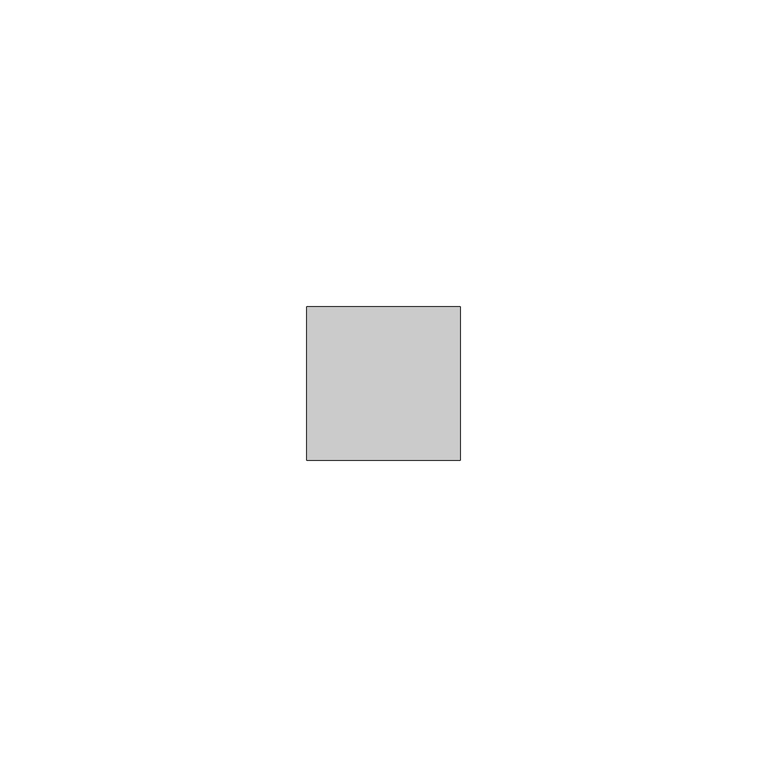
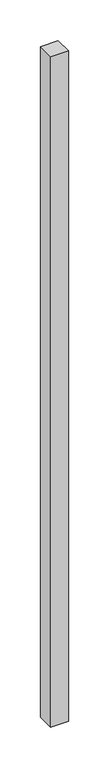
"""IFC4 building model written with IfcOpenShell, lengths in millimetres: member geometry, Obdélníková příčel : VERTI AERO."""

import ifcopenshell
import ifcopenshell.guid

model = None  # the IFC model being written
_history = None  # IfcOwnerHistory: only IFC2X3 demands one
_inside = {}  # id of a spatial element -> (the spatial element, [elements in it])
_under = {}  # id of a project, library or spatial element -> (it, [spatial elements below it])
_declared = {}  # id of a project -> (the project, [libraries it declares])
_typed = {}  # id of a type object -> (the type object, [elements of that type])
_made_of = {}  # id of a material, layer set ... -> (it, [elements and type objects made of it])


def new_model(schema):
    """Start an empty IFC model of exactly this schema.

    Asked for "IFC4X3", IfcOpenShell would pick the latest addendum, in which some entities
    have other attributes; the version numbers below select the first issue.
    IFC2X3 requires an IfcOwnerHistory on every rooted entity: one is made here for all.
    """
    global model, _history
    if schema == "IFC4X3":
        model = ifcopenshell.file(schema_version=(4, 3, 0, 0))
    else:
        model = ifcopenshell.file(schema=schema)
    _inside.clear()
    _under.clear()
    _declared.clear()
    _typed.clear()
    _made_of.clear()
    _history = None
    if model.schema == "IFC2X3":
        org = make("IfcOrganization", Name="unknown")
        user = make(
            "IfcPersonAndOrganization",
            ThePerson=make("IfcPerson", FamilyName="unknown"),
            TheOrganization=org,
        )
        app = make(
            "IfcApplication",
            ApplicationDeveloper=org,
            Version="unknown",
            ApplicationFullName="unknown",
            ApplicationIdentifier="unknown",
        )
        _history = make(
            "IfcOwnerHistory",
            OwningUser=user,
            OwningApplication=app,
            ChangeAction="ADDED",
            CreationDate=0,
        )
    return model


def make(cls, **values):
    """One entity of the class cls with the attributes given. An attribute that is None is left unset."""
    return model.create_entity(
        cls, **{name: value for name, value in values.items() if value is not None}
    )


def rooted(cls, **values):
    """An entity with a GlobalId (a new one), such as an element, a storey or a relation."""
    return make(cls, GlobalId=ifcopenshell.guid.new(), OwnerHistory=_history, **values)


def si_unit(unit_type, name, prefix=None):
    """IfcSIUnit, for example si_unit("LENGTHUNIT", "METRE", prefix="MILLI")."""
    return make("IfcSIUnit", UnitType=unit_type, Prefix=prefix, Name=name)


def assignment(units):
    """IfcUnitAssignment: the units of a project."""
    return None if units is None else make("IfcUnitAssignment", Units=units)


def point(xyz):
    """IfcCartesianPoint."""
    return None if xyz is None else make("IfcCartesianPoint", Coordinates=xyz)


def direction(xyz):
    """IfcDirection."""
    return None if xyz is None else make("IfcDirection", DirectionRatios=xyz)


def frame(location, z_axis=None, x_axis=None):
    """IfcAxis2Placement3D, a coordinate frame: its origin and axes. An axis left out is left unset."""
    return make(
        "IfcAxis2Placement3D",
        Location=point(location),
        Axis=direction(z_axis),
        RefDirection=direction(x_axis),
    )


def origin():
    """The frame at (0, 0, 0) with its axes left unset."""
    return frame((0.0, 0.0, 0.0))


def place(relative_to, where):
    """IfcLocalPlacement: puts the frame where relative to a parent placement (None: the world)."""
    return make(
        "IfcLocalPlacement", PlacementRelTo=relative_to, RelativePlacement=where
    )


def context(
    kind, dimensions, precision=None, world=None, true_north=None, identifier=None
):
    """IfcGeometricRepresentationContext, for example the 3D "Model" context."""
    return make(
        "IfcGeometricRepresentationContext",
        ContextIdentifier=identifier,
        ContextType=kind,
        CoordinateSpaceDimension=dimensions,
        Precision=precision,
        WorldCoordinateSystem=world,
        TrueNorth=true_north,
    )


def project(units=None, contexts=None):
    """IfcProject with its units and contexts."""
    return rooted(
        "IfcProject",
        Name="project",
        RepresentationContexts=contexts,
        UnitsInContext=assignment(units),
    )


def spatial(cls, under=None, at=None, **own):
    """A site, building, storey or space (cls), placed at a placement, below another one or the project."""
    s = rooted(cls, ObjectPlacement=at, **own)
    if under is not None:
        _under.setdefault(under.id(), (under, []))[1].append(s)
    return s


def polyline(points):
    """IfcPolyline through the points."""
    return make("IfcPolyline", Points=[point(p) for p in points])


def outline(outer, holes=None, kind="AREA"):
    """IfcArbitraryClosedProfileDef: a profile drawn as a closed curve; with holes, ...WithVoids."""
    if holes is None:
        return make("IfcArbitraryClosedProfileDef", ProfileType=kind, OuterCurve=outer)
    return make(
        "IfcArbitraryProfileDefWithVoids",
        ProfileType=kind,
        OuterCurve=outer,
        InnerCurves=holes,
    )


def extrude(swept, where, along, depth):
    """IfcExtrudedAreaSolid: the profile swept, set in the frame where, extruded along a direction by depth."""
    return make(
        "IfcExtrudedAreaSolid",
        SweptArea=swept,
        Position=where,
        ExtrudedDirection=direction(along),
        Depth=depth,
    )


def shape(context_of_items, identifier, shape_type, items):
    """IfcShapeRepresentation: the items that make up one representation, for example the "Body"."""
    return make(
        "IfcShapeRepresentation",
        ContextOfItems=context_of_items,
        RepresentationIdentifier=identifier,
        RepresentationType=shape_type,
        Items=items,
    )


def source(mapping_origin, context_of_items, identifier, shape_type, items):
    """IfcRepresentationMap: a shape defined once, which mapped items show again and again."""
    return make(
        "IfcRepresentationMap",
        MappingOrigin=mapping_origin,
        MappedRepresentation=shape(context_of_items, identifier, shape_type, items),
    )


def transform(
    local_origin,
    x_axis=None,
    y_axis=None,
    z_axis=None,
    scale=None,
    scale2=None,
    scale3=None,
    uniform=True,
):
    """IfcCartesianTransformationOperator3D, or its non-uniform kind. x_axis, y_axis, z_axis: its Axis1, 2, 3."""
    if uniform:
        return make(
            "IfcCartesianTransformationOperator3D",
            Axis1=direction(x_axis),
            Axis2=direction(y_axis),
            LocalOrigin=point(local_origin),
            Scale=scale,
            Axis3=direction(z_axis),
        )
    return make(
        "IfcCartesianTransformationOperator3DnonUniform",
        Axis1=direction(x_axis),
        Axis2=direction(y_axis),
        LocalOrigin=point(local_origin),
        Scale=scale,
        Axis3=direction(z_axis),
        Scale2=scale2,
        Scale3=scale3,
    )


def mapped(mapping_source, mapping_target):
    """IfcMappedItem: shows the shape of a source again, moved by a transform."""
    return make(
        "IfcMappedItem", MappingSource=mapping_source, MappingTarget=mapping_target
    )


def made_of(thing, what):
    """Note that an element or type object is made of a material, layer set ...; save() writes the relation."""
    if what is not None:
        _made_of.setdefault(what.id(), (what, []))[1].append(thing)
    return thing


def element(
    cls,
    number,
    at=None,
    inside=None,
    cuts=None,
    type_object=None,
    material=None,
    context=None,
    identifier="Body",
    shape_type=None,
    held_by="IfcProductDefinitionShape",
    body=None,
    shapes=None,
    **own,
):
    """One element of the class cls, such as IfcWall. Its Tag is "e" and its number.

    at: its placement. inside: the storey or other place that contains it. cuts: it is an
    opening in that element (IfcRelVoidsElement). A single representation is given by context,
    identifier, shape_type and body (its items); several are given by shapes. held_by: the class
    of the entity that holds the representations. save() writes the other relations.
    """
    e = rooted(cls, Tag="e%d" % number, ObjectPlacement=at, **own)
    if body is not None:
        shapes = [shape(context, identifier, shape_type, body)]
    if shapes is not None:
        e.Representation = make(held_by, Representations=shapes)
    if inside is not None:
        _inside.setdefault(inside.id(), (inside, []))[1].append(e)
    if cuts is not None:
        rooted(
            "IfcRelVoidsElement", RelatingBuildingElement=cuts, RelatedOpeningElement=e
        )
    if type_object is not None:
        _typed.setdefault(type_object.id(), (type_object, []))[1].append(e)
    return made_of(e, material)


def aggregate(whole, parts):
    """IfcRelAggregates: a whole, such as a stair, and the parts it consists of."""
    return rooted("IfcRelAggregates", RelatingObject=whole, RelatedObjects=parts)


def save(model, path):
    """Write the relations noted so far, then the file.

    IfcRelAggregates (storeys below a building ...), IfcRelContainedInSpatialStructure (elements
    in a storey), IfcRelDefinesByType, IfcRelAssociatesMaterial and IfcRelDeclares: one each for
    every whole, place, type object, material and project.
    """
    for whole, parts in _under.values():
        aggregate(whole, parts)
    for where, things in _inside.values():
        rooted(
            "IfcRelContainedInSpatialStructure",
            RelatedElements=things,
            RelatingStructure=where,
        )
    for kind, things in _typed.values():
        rooted("IfcRelDefinesByType", RelatedObjects=things, RelatingType=kind)
    for what, things in _made_of.values():
        rooted("IfcRelAssociatesMaterial", RelatedObjects=things, RelatingMaterial=what)
    for by, libraries in _declared.values():
        rooted("IfcRelDeclares", RelatingContext=by, RelatedDefinitions=libraries)
    model.write(path)


def member_3ccf52a2(model_context):
    return source(origin(), model_context, "Body", "SweptSolid", [
        extrude(outline(polyline([(-25.0, 12.5), (0.0, 12.5), (0.0, -12.5), (-25.0, -12.5), (-25.0, 12.5)])), frame((0.0, 0.0, -1005.0), z_axis=(0.0, 0.0, 1.0), x_axis=(1.0, 0.0, 0.0)), (0.0, 0.0, 1.0), 1005.0),
    ])


if __name__ == "__main__":
    model = new_model("IFC4")
    model_context = context("Model", 3, world=origin())
    ifc_project = project(units=[si_unit("LENGTHUNIT", "METRE", prefix="MILLI")], contexts=[model_context])
    site = spatial("IfcSite", under=ifc_project)
    building = spatial("IfcBuilding", under=site)
    placement = place(None, origin())
    member_shape = member_3ccf52a2(model_context)
    element("IfcMember", 1, ObjectType="Obdélníková příčel : VERTI AERO", at=placement, inside=building, context=model_context, shape_type="MappedRepresentation", body=[
        mapped(member_shape, transform((0.0, 0.0, 0.0), x_axis=(1.0, 0.0, 0.0), y_axis=(0.0, 1.0, 0.0), z_axis=(0.0, 0.0, 1.0))),
    ])
    save(model, "model.ifc")
